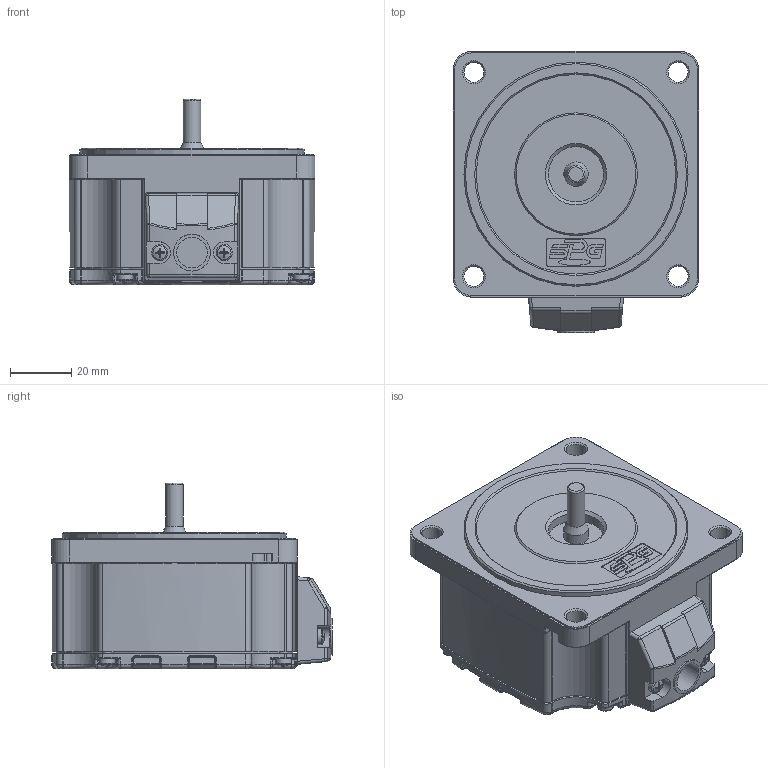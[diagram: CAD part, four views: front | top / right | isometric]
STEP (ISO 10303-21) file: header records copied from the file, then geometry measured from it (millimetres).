
FILE_DESCRIPTION((''),'2;1');
FILE_NAME('C:\Documents and Settings\Administrator\바탕 화면\BLDC 3D FILE\GEAR HEAD ASS''Y\60\MOTOR\80\80-G TYPE.stp','2014-06-19T12:52:23',('kdhkdh'),(''),'Autodesk Inventor 2011','Autodesk Inventor 2011','');
FILE_SCHEMA(('AUTOMOTIVE_DESIGN { 1 0 10303 214 1 1 1 1 }'));
Length unit declared in the file: millimetre
Products named in the file (1): 부품6
Bounding box: 80 x 91.5 x 60.5 mm (x, y, z)
Volume: 243533.9 mm3; surface area: 39575.8 mm2
Topology: 1 solids, 4 shells, 836 faces, 2084 edges, 1232 vertices
Faces by surface type: cylinder 245, plane 196, bspline 162, torus 136, cone 79, sphere 18
Full cylindrical faces by diameter (mm): 2.729 x6, 3 x6, 3.5 x6, 5.3 x6, 5.72 x1, 6.5 x4, 8 x1, 10 x1, 12 x1, 18 x1, 61 x1, 73 x1, 77 x2
Entity records: 28208 total; most frequent: CARTESIAN_POINT 9640, ORIENTED_EDGE 3872, DIRECTION 3754, EDGE_CURVE 1936, AXIS2_PLACEMENT_3D 1585, VERTEX_POINT 1205, EDGE_LOOP 956, CIRCLE 856
